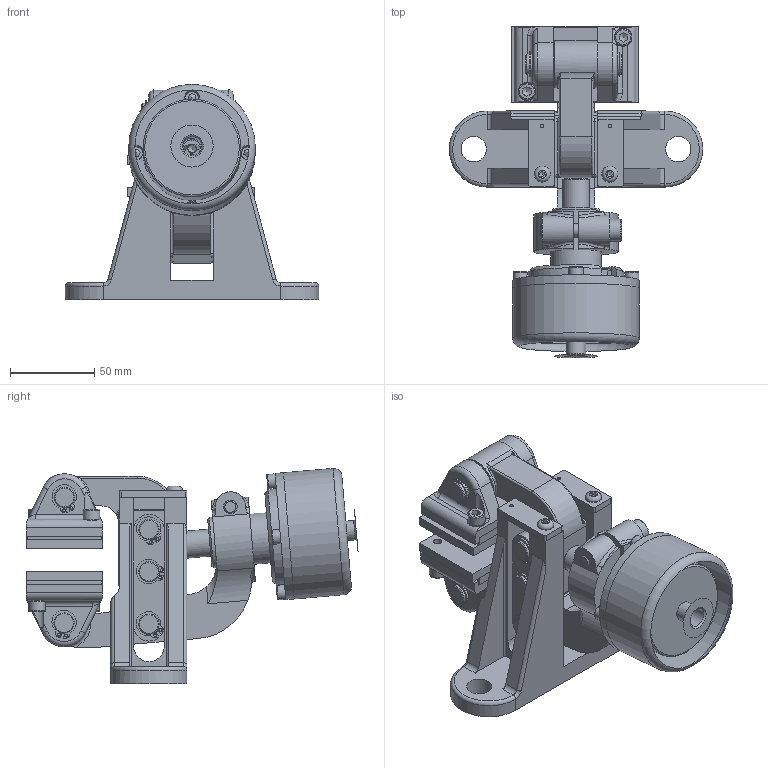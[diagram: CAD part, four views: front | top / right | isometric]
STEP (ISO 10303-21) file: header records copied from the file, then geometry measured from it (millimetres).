
FILE_DESCRIPTION(/* description */ ('','CAx-IF Rec.Pracs.---Representation and Presentation of Product Manufacturing Information (PMI)---4.0---2014-10-13'),/* implementation_level */ '2;1');
FILE_NAME(/* name */ 'X:\INVENTOR\DISEGNI\19_Pinze\STEP x Sito\PNEUM-POSITIVE\19_16_011_03 PPD011_12,7.stp',/* time_stamp */ '2018-02-14T07:38:24+01:00',/* author */ ('stefano'),/* organization */ (''),/* preprocessor_version */ 'ST-DEVELOPER v17',/* originating_system */ 'Autodesk Inventor 2018',/* authorisation */ '');
FILE_SCHEMA (('AP242_MANAGED_MODEL_BASED_3D_ENGINEERING_MIM_LF { 1 0 10303 442 1 1 4 }'));
Length unit declared in the file: millimetre
Products named in the file (1): 19_16_011_03 PPD011_12,7_Substitute_2
Bounding box: 150 x 196.49 x 127.32 mm (x, y, z)
Volume: 702868 mm3; surface area: 144678.6 mm2
Topology: 5 solids, 5 shells, 792 faces, 2212 edges, 1462 vertices
Faces by surface type: plane 420, cylinder 245, cone 55, torus 47, bspline 24, sphere 1
Full cylindrical faces by diameter (mm): 1.7 x20, 2 x2, 3 x1, 4.134 x1, 4.917 x8, 5 x1, 6 x1, 7.25 x2, 8 x2, 8.5 x5, 9.5 x4, 10 x8, 11.445 x1, 11.5 x10, 12 x23, 13 x1, 13.5 x1, 15 x2, 16 x2, 19 x1, 22.6 x1, 30 x1, 56.5 x1, 58 x1, 75 x2
Entity records: 30282 total; most frequent: CARTESIAN_POINT 8653, DIRECTION 4454, ORIENTED_EDGE 4392, EDGE_CURVE 2196, AXIS2_PLACEMENT_3D 1673, VERTEX_POINT 1462, LINE 1108, VECTOR 1108
